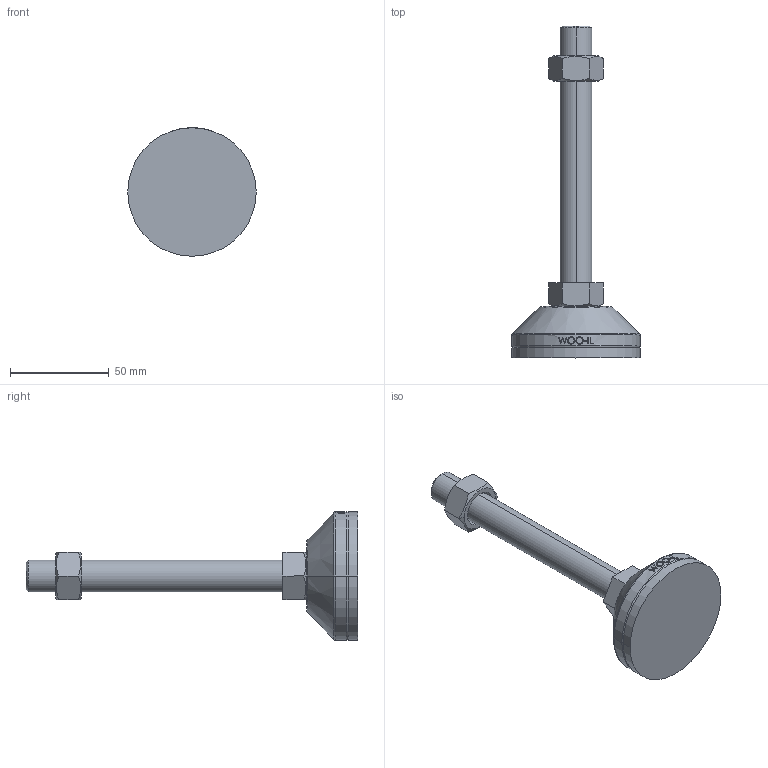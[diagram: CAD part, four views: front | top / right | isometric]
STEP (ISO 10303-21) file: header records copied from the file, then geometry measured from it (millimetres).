
FILE_DESCRIPTION (( 'STEP AP214' ), '1' );
FILE_NAME ('NHNR65-M16-130 (Æò).step', '2021-01-25T06:19:29', ( '' ), ( '' ), 'SwSTEP 2.0', 'SolidWorks 2019', '' );
FILE_SCHEMA (( 'AUTOMOTIVE_DESIGN' ));
Length unit declared in the file: millimetre
Products named in the file (2): NHNR65-M16-130 (ゎ)
Bounding box: 65 x 168 x 65 mm (x, y, z)
Volume: 104373.6 mm3; surface area: 27168 mm2
Topology: 4 solids, 4 shells, 100 faces, 229 edges, 146 vertices
Faces by surface type: plane 48, cylinder 16, bspline 16, cone 14, torus 6
Entity records: 4231 total; most frequent: CARTESIAN_POINT 2025, ORIENTED_EDGE 458, DIRECTION 401, EDGE_CURVE 229, AXIS2_PLACEMENT_3D 152, VERTEX_POINT 146, EDGE_LOOP 111, FACE_OUTER_BOUND 100
